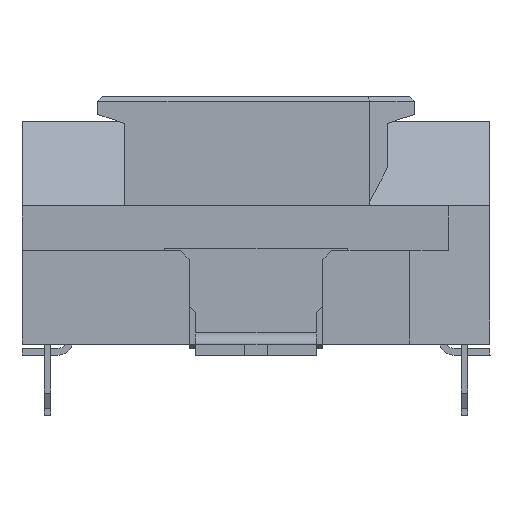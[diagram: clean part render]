
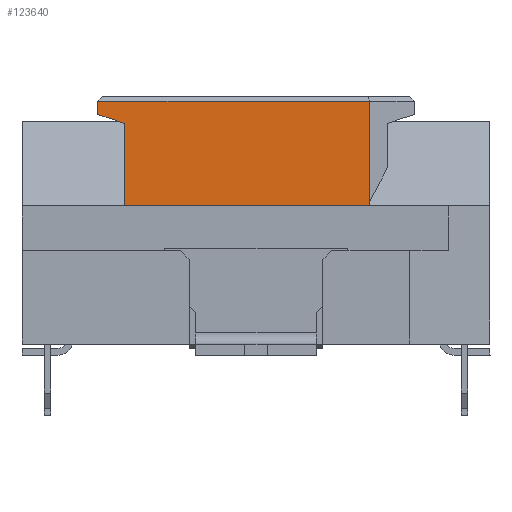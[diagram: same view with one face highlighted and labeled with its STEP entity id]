
A CAD part, left-side view. The second image highlights one B-rep face of the part: STEP entity #123640.
In plain terms, the highlighted planar face has unit normal (-1, 0, 0).
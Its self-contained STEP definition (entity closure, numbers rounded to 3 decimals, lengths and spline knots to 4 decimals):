
#103910=CARTESIAN_POINT('',(-19.55,3.55,
5.7));
#103920=VERTEX_POINT('',#103910);
#103950=CARTESIAN_POINT('',(-19.55,3.55,
5.7));
#103960=DIRECTION('',(0.,0.,-1.));
#103970=VECTOR('',#103960,1.);
#103980=LINE('',#103950,#103970);
#103990=CARTESIAN_POINT('',(-19.55,3.55,
5.4));
#104000=VERTEX_POINT('',#103990);
#104010=EDGE_CURVE('',#103920,#104000,#103980,.T.);
#104670=CARTESIAN_POINT('',(-19.55,3.55,
5.7));
#104680=DIRECTION('',(0.,-1.,0.));
#104690=VECTOR('',#104680,1.);
#104700=LINE('',#104670,#104690);
#104710=CARTESIAN_POINT('',(-19.55,-2.55,
5.7));
#104720=VERTEX_POINT('',#104710);
#104730=EDGE_CURVE('',#103920,#104720,#104700,.T.);
#122400=CARTESIAN_POINT('',(-19.55,2.95,
3.35));
#122410=VERTEX_POINT('',#122400);
#122440=CARTESIAN_POINT('',(-19.55,2.95,
3.35));
#122450=DIRECTION('',(0.,-1.,0.));
#122460=VECTOR('',#122450,1.);
#122470=LINE('',#122440,#122460);
#122480=CARTESIAN_POINT('',(-19.55,-2.55,
3.35));
#122490=VERTEX_POINT('',#122480);
#122500=EDGE_CURVE('',#122410,#122490,#122470,.T.);
#122800=CARTESIAN_POINT('',(-19.55,-2.55,
3.445));
#122810=VERTEX_POINT('',#122800);
#123140=CARTESIAN_POINT('',(-19.55,-2.55,
3.445));
#123150=DIRECTION('',(0.,0.,-1.));
#123160=VECTOR('',#123150,1.);
#123170=LINE('',#123140,#123160);
#123180=EDGE_CURVE('',#122810,#122490,#123170,.T.);
#123250=CARTESIAN_POINT('',(-19.55,0.,
5.05));
#123260=DIRECTION('',(-1.,0.,0.));
#123270=DIRECTION('',(0.,-1.,0.));
#123280=AXIS2_PLACEMENT_3D('',#123250,#123260,#123270);
#123290=PLANE('',#123280);
#123300=ORIENTED_EDGE('',*,*,#122500,.T.);
#123310=CARTESIAN_POINT('',(-19.55,2.95,
3.35));
#123320=DIRECTION('',(0.,0.,1.));
#123330=VECTOR('',#123320,1.);
#123340=LINE('',#123310,#123330);
#123350=CARTESIAN_POINT('',(-19.55,2.95,
3.445));
#123360=VERTEX_POINT('',#123350);
#123370=EDGE_CURVE('',#122410,#123360,#123340,.T.);
#123380=ORIENTED_EDGE('',*,*,#123370,.F.);
#123390=CARTESIAN_POINT('',(-19.55,2.95,
3.445));
#123400=DIRECTION('',(0.,0.,1.));
#123410=VECTOR('',#123400,1.);
#123420=LINE('',#123390,#123410);
#123430=CARTESIAN_POINT('',(-19.55,2.95,
5.2));
#123440=VERTEX_POINT('',#123430);
#123450=EDGE_CURVE('',#123360,#123440,#123420,.T.);
#123460=ORIENTED_EDGE('',*,*,#123450,.F.);
#123470=CARTESIAN_POINT('',(-19.55,3.55,
5.4));
#123480=DIRECTION('',(0.,-0.949,
-0.316));
#123490=VECTOR('',#123480,1.);
#123500=LINE('',#123470,#123490);
#123510=EDGE_CURVE('',#104000,#123440,#123500,.T.);
#123520=ORIENTED_EDGE('',*,*,#123510,.T.);
#123530=ORIENTED_EDGE('',*,*,#104010,.T.);
#123540=ORIENTED_EDGE('',*,*,#104730,.F.);
#123550=CARTESIAN_POINT('',(-19.55,-2.55,
3.445));
#123560=DIRECTION('',(0.,0.,1.));
#123570=VECTOR('',#123560,1.);
#123580=LINE('',#123550,#123570);
#123590=EDGE_CURVE('',#122810,#104720,#123580,.T.);
#123600=ORIENTED_EDGE('',*,*,#123590,.T.);
#123610=ORIENTED_EDGE('',*,*,#123180,.F.);
#123620=EDGE_LOOP('',(#123610,#123600,#123540,#123530,#123520,#123460,
#123380,#123300));
#123630=FACE_OUTER_BOUND('',#123620,.T.);
#123640=ADVANCED_FACE('',(#123630),#123290,.T.);
